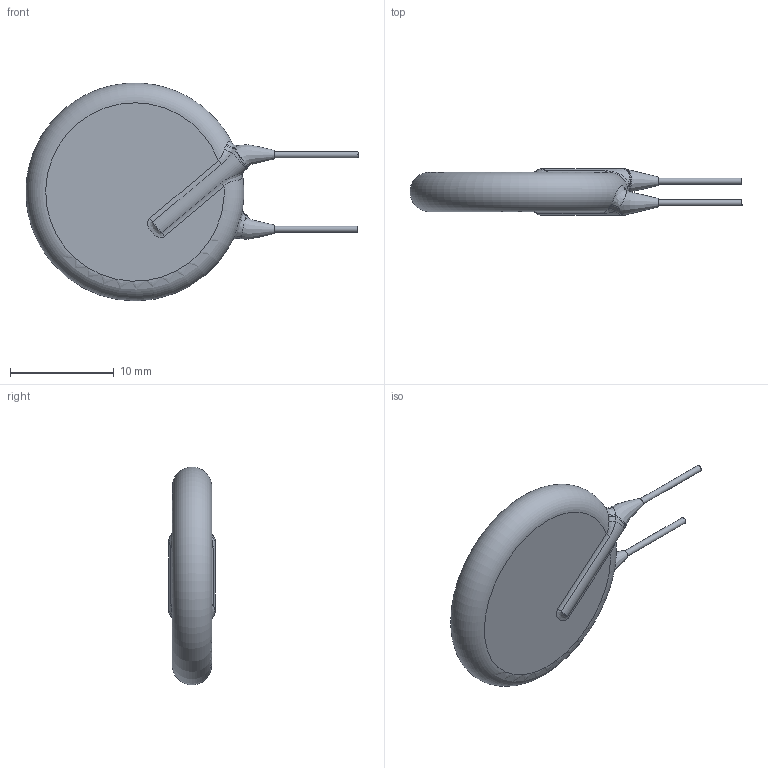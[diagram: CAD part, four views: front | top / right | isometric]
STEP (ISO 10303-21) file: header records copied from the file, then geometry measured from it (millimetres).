
FILE_DESCRIPTION(/* description */ (''),/* implementation_level */ '2;1');
FILE_NAME(/* name */ 'I:\Marketing\M6t1\3D-Models\Zchng-Werk-3\Upload for homepage\Roederstein\WYO\Y5U_250-440\WYO103MCMCD0KR\WYO103MCMCD0KR.stp',/* time_stamp */ '2018-03-20T15:46:43+01:00',/* author */ ('sheinrich'),/* organization */ (''),/* preprocessor_version */ 'ST-DEVELOPER v16.1',/* originating_system */ 'Autodesk Inventor 2016',/* authorisation */ '');
FILE_SCHEMA (('AUTOMOTIVE_DESIGN { 1 0 10303 214 3 1 1 }'));
Length unit declared in the file: centimetre
Products named in the file (1): WYO103MCMCD0KR
Bounding box: 32 x 4.5 x 21 mm (x, y, z)
Volume: 1252.6 mm3; surface area: 901.4 mm2
Topology: 1 solids, 1 shells, 41 faces, 92 edges, 55 vertices
Faces by surface type: bspline 22, cylinder 8, plane 6, torus 5
Full cylindrical faces by diameter (mm): 0.6 x2
Entity records: 2035 total; most frequent: CARTESIAN_POINT 1194, ORIENTED_EDGE 176, DIRECTION 116, EDGE_CURVE 88, VERTEX_POINT 54, AXIS2_PLACEMENT_3D 54, B_SPLINE_CURVE_WITH_KNOTS 46, EDGE_LOOP 46
